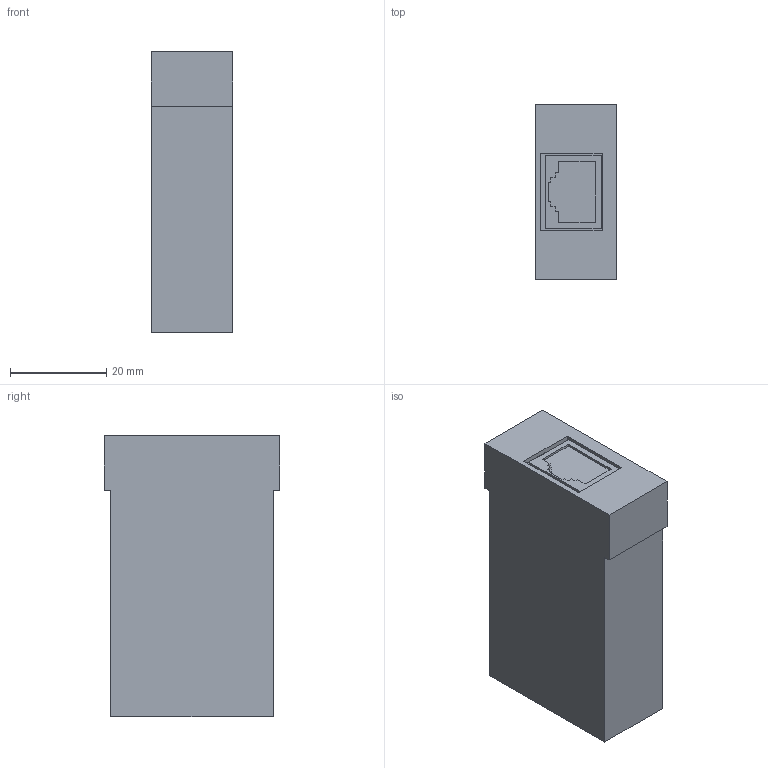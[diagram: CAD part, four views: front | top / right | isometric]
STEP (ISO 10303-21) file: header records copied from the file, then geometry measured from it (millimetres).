
FILE_DESCRIPTION (( 'STEP AP203' ), '1' );
FILE_NAME ('afp7ccet1.STEP', '2013-10-02T00:46:03', ( 'sunx' ), ( 'sunx' ), 'SwSTEP 2.0', 'SolidWorks 2010', '' );
FILE_SCHEMA (( 'CONFIG_CONTROL_DESIGN' ));
Length unit declared in the file: millimetre
Products named in the file (1): afp7ccet1
Bounding box: 17 x 36.4 x 58.3 mm (x, y, z)
Volume: 24286.2 mm3; surface area: 11359.8 mm2
Topology: 1 solids, 1 shells, 50 faces, 132 edges, 88 vertices
Faces by surface type: plane 50
Entity records: 1593 total; most frequent: CARTESIAN_POINT 271, ORIENTED_EDGE 264, DIRECTION 234, EDGE_CURVE 132, VECTOR 132, LINE 132, VERTEX_POINT 88, EDGE_LOOP 54
